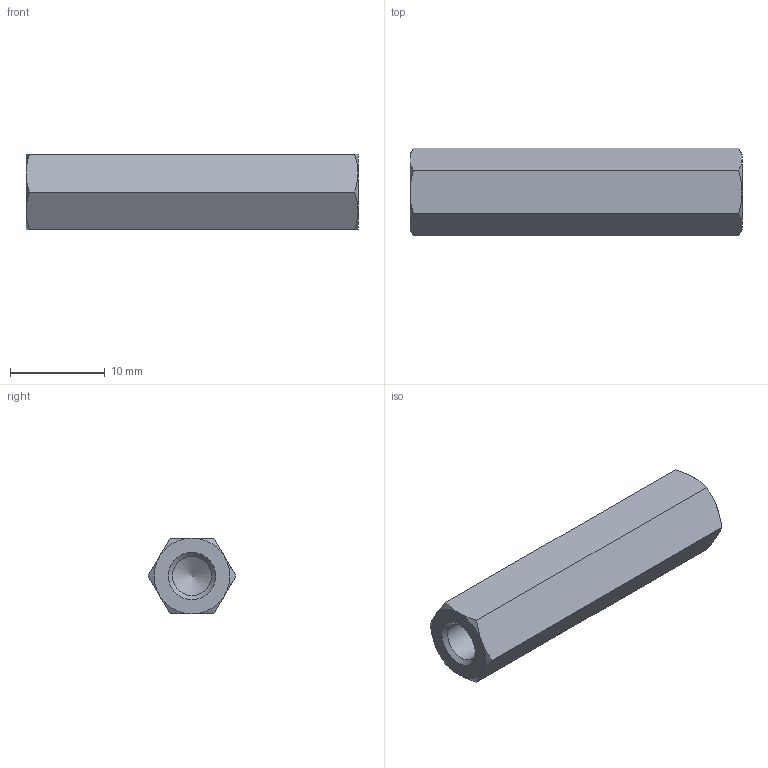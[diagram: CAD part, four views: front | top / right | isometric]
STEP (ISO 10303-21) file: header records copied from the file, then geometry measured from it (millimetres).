
FILE_DESCRIPTION( ( 'STEP AP203' ), '1' );
FILE_NAME( 'C:/Temp/Ganter_Step_05_03_2020/data/3_2/gn6220/gn6220_ni/Stainless Steel-Spacer GN 6220-NI-M5-35-A.stp', '2020-03-13T05:43:00', ( 'License CC BY-ND 4.0' ), ( 'CADENAS' ), ' ', 'PARTsolutions', ' ' );
FILE_SCHEMA( ( 'CONFIG_CONTROL_DESIGN' ) );
Length unit declared in the file: millimetre
Products named in the file (1): _Stainless Steel-Spacer GN 6220-NI-M5-35-A
Bounding box: 35 x 9.24 x 8 mm (x, y, z)
Volume: 1543.9 mm3; surface area: 1442.8 mm2
Topology: 1 solids, 1 shells, 26 faces, 57 edges, 33 vertices
Faces by surface type: cone 16, plane 8, cylinder 2
Full cylindrical faces by diameter (mm): 4.134 x2
Entity records: 750 total; most frequent: CARTESIAN_POINT 211, DIRECTION 96, ORIENTED_EDGE 96, EDGE_CURVE 48, AXIS2_PLACEMENT_3D 45, EDGE_LOOP 32, VERTEX_POINT 32, FACE_OUTER_BOUND 28
